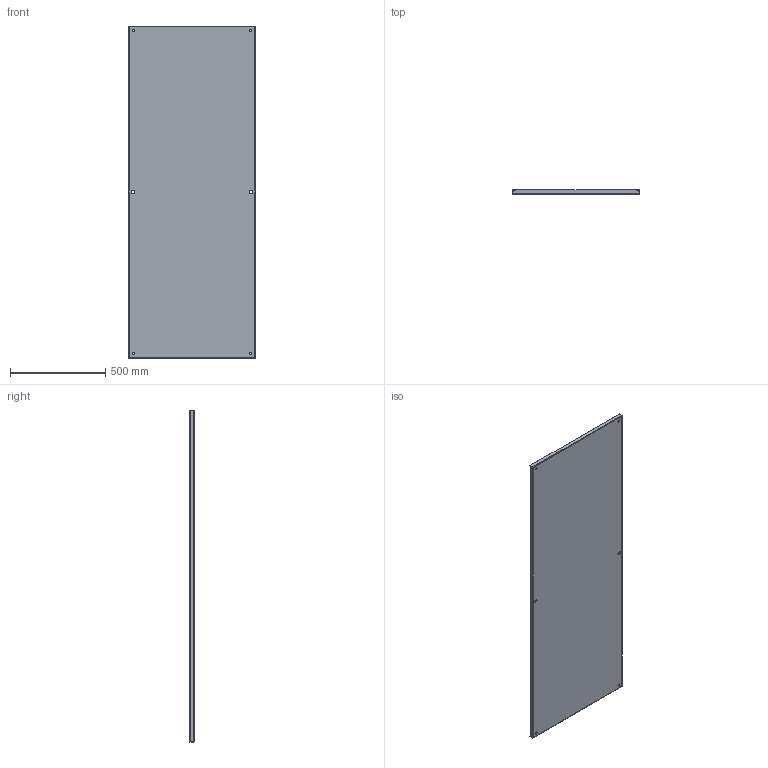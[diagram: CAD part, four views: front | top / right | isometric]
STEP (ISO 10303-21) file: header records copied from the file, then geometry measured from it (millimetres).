
FILE_DESCRIPTION( ( 'Unknown' ), '1' );
FILE_NAME( 'Q:/IME/WEB DRAWINGS/PANELS/INNER PANEL/STEP/IMEP188.stp', 'Unknown', ( 'Unknown' ), ( 'Unknown' ), 'XStep 1.0', 'Unknown', ' ' );
FILE_SCHEMA( ( 'CONFIG_CONTROL_DESIGN' ) );
Length unit declared in the file: millimetre
Products named in the file (1): 1
Bounding box: 666.75 x 22.23 x 1746.25 mm (x, y, z)
Volume: 3116338.3 mm3; surface area: 2595796 mm2
Topology: 1 solids, 1 shells, 78 faces, 208 edges, 132 vertices
Faces by surface type: plane 42, cylinder 28, bspline 8
Full cylindrical faces by diameter (mm): 12.7 x4
Entity records: 3076 total; most frequent: CARTESIAN_POINT 1167, ORIENTED_EDGE 400, DIRECTION 358, EDGE_CURVE 200, VERTEX_POINT 128, AXIS2_PLACEMENT_3D 127, LINE 104, VECTOR 104
